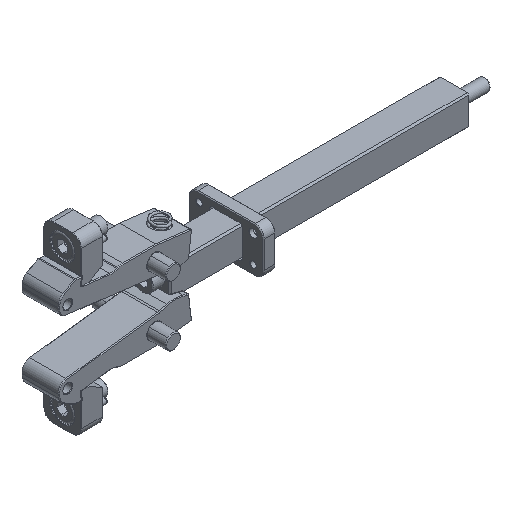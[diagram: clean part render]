
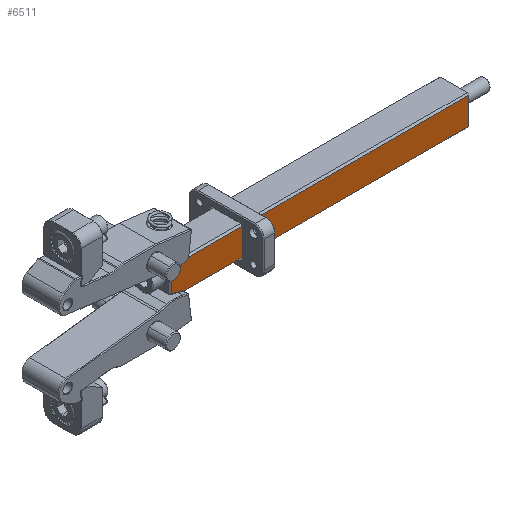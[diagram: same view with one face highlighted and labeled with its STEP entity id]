
A CAD part, isometric view. The second image highlights one B-rep face of the part: STEP entity #6511.
In plain terms, the highlighted planar face has unit normal (0, -1, 0) as drawn and (0, 0, -1) by its records, which use the part's own axes.
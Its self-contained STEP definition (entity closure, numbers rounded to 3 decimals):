
#51 = DIRECTION ( 'NONE',  ( 0.707, -0.707, 0. ) ) ;
#156 = CARTESIAN_POINT ( 'NONE',  ( 9., 189.868, -10. ) ) ;
#159 = ORIENTED_EDGE ( 'NONE', *, *, #1564, .T. ) ;
#169 = CARTESIAN_POINT ( 'NONE',  ( -9., 189.868, -10. ) ) ;
#418 = VECTOR ( 'NONE', #2031, 1000. ) ;
#449 = VERTEX_POINT ( 'NONE', #2289 ) ;
#717 = CARTESIAN_POINT ( 'NONE',  ( -6.54, 199., -10. ) ) ;
#764 = AXIS2_PLACEMENT_3D ( 'NONE', #830, #3620, #6434 ) ;
#830 = CARTESIAN_POINT ( 'NONE',  ( 0., 0., -10. ) ) ;
#1006 = VECTOR ( 'NONE', #6380, 1000. ) ;
#1114 = VERTEX_POINT ( 'NONE', #156 ) ;
#1372 = CARTESIAN_POINT ( 'NONE',  ( 6.558, 198.982, -10. ) ) ;
#1432 = CARTESIAN_POINT ( 'NONE',  ( 9., 1., -10. ) ) ;
#1525 = PLANE ( 'NONE',  #764 ) ;
#1537 = LINE ( 'NONE', #5516, #418 ) ;
#1564 = EDGE_CURVE ( 'NONE', #3463, #2491, #8561, .T. ) ;
#1614 = CARTESIAN_POINT ( 'NONE',  ( -10., 1., -10. ) ) ;
#1732 = CARTESIAN_POINT ( 'NONE',  ( -9., 190., -10. ) ) ;
#2031 = DIRECTION ( 'NONE',  ( 0.259, -0.966, 0. ) ) ;
#2215 = CARTESIAN_POINT ( 'NONE',  ( -6.558, 198.982, -10. ) ) ;
#2289 = CARTESIAN_POINT ( 'NONE',  ( 6.54, 199., -10. ) ) ;
#2460 = EDGE_CURVE ( 'NONE', #6765, #449, #3570, .T. ) ;
#2491 = VERTEX_POINT ( 'NONE', #6523 ) ;
#2700 = DIRECTION ( 'NONE',  ( 0.259, 0.966, 0. ) ) ;
#2781 = VECTOR ( 'NONE', #4647, 1000. ) ;
#2804 = ORIENTED_EDGE ( 'NONE', *, *, #4890, .T. ) ;
#2902 = EDGE_CURVE ( 'NONE', #3939, #1114, #1537, .T. ) ;
#2990 = CARTESIAN_POINT ( 'NONE',  ( 6.954, 199., -10. ) ) ;
#3229 = EDGE_CURVE ( 'NONE', #1114, #3463, #7504, .T. ) ;
#3317 = CARTESIAN_POINT ( 'NONE',  ( 9., 0., -10. ) ) ;
#3463 = VERTEX_POINT ( 'NONE', #1432 ) ;
#3511 = ORIENTED_EDGE ( 'NONE', *, *, #8535, .T. ) ;
#3529 = LINE ( 'NONE', #6898, #4122 ) ;
#3570 = LINE ( 'NONE', #2990, #1006 ) ;
#3620 = DIRECTION ( 'NONE',  ( 0., 0., 1. ) ) ;
#3893 = ORIENTED_EDGE ( 'NONE', *, *, #2460, .T. ) ;
#3939 = VERTEX_POINT ( 'NONE', #1372 ) ;
#4122 = VECTOR ( 'NONE', #51, 1000. ) ;
#4284 = EDGE_LOOP ( 'NONE', ( #3893, #7218, #7555, #9015, #159, #3511, #2804, #6441 ) ) ;
#4576 = LINE ( 'NONE', #1732, #4731 ) ;
#4647 = DIRECTION ( 'NONE',  ( 0., -1., 0. ) ) ;
#4679 = VERTEX_POINT ( 'NONE', #169 ) ;
#4731 = VECTOR ( 'NONE', #8764, 1000. ) ;
#4890 = EDGE_CURVE ( 'NONE', #4679, #6065, #5386, .T. ) ;
#5386 = LINE ( 'NONE', #5566, #5570 ) ;
#5516 = CARTESIAN_POINT ( 'NONE',  ( 9.034, 189.741, -10. ) ) ;
#5566 = CARTESIAN_POINT ( 'NONE',  ( -6.489, 199.241, -10. ) ) ;
#5570 = VECTOR ( 'NONE', #2700, 1000. ) ;
#5611 = VECTOR ( 'NONE', #8742, 1000. ) ;
#5740 = DIRECTION ( 'NONE',  ( -1., 0., 0. ) ) ;
#6065 = VERTEX_POINT ( 'NONE', #2215 ) ;
#6356 = EDGE_CURVE ( 'NONE', #449, #3939, #3529, .T. ) ;
#6380 = DIRECTION ( 'NONE',  ( 1., 0., 0. ) ) ;
#6434 = DIRECTION ( 'NONE',  ( 1., 0., 0. ) ) ;
#6441 = ORIENTED_EDGE ( 'NONE', *, *, #7384, .T. ) ;
#6511 = ADVANCED_FACE ( 'NONE', ( #7827 ), #1525, .F. ) ;
#6523 = CARTESIAN_POINT ( 'NONE',  ( -9., 1., -10. ) ) ;
#6765 = VERTEX_POINT ( 'NONE', #717 ) ;
#6898 = CARTESIAN_POINT ( 'NONE',  ( 6.747, 198.793, -10. ) ) ;
#7190 = CARTESIAN_POINT ( 'NONE',  ( -6.247, 199.293, -10. ) ) ;
#7218 = ORIENTED_EDGE ( 'NONE', *, *, #6356, .T. ) ;
#7384 = EDGE_CURVE ( 'NONE', #6065, #6765, #7880, .T. ) ;
#7504 = LINE ( 'NONE', #3317, #2781 ) ;
#7555 = ORIENTED_EDGE ( 'NONE', *, *, #2902, .T. ) ;
#7827 = FACE_OUTER_BOUND ( 'NONE', #4284, .T. ) ;
#7880 = LINE ( 'NONE', #7190, #5611 ) ;
#8005 = VECTOR ( 'NONE', #5740, 1000. ) ;
#8535 = EDGE_CURVE ( 'NONE', #2491, #4679, #4576, .T. ) ;
#8561 = LINE ( 'NONE', #1614, #8005 ) ;
#8742 = DIRECTION ( 'NONE',  ( 0.707, 0.707, 0. ) ) ;
#8764 = DIRECTION ( 'NONE',  ( 0., 1., 0. ) ) ;
#9015 = ORIENTED_EDGE ( 'NONE', *, *, #3229, .T. ) ;
